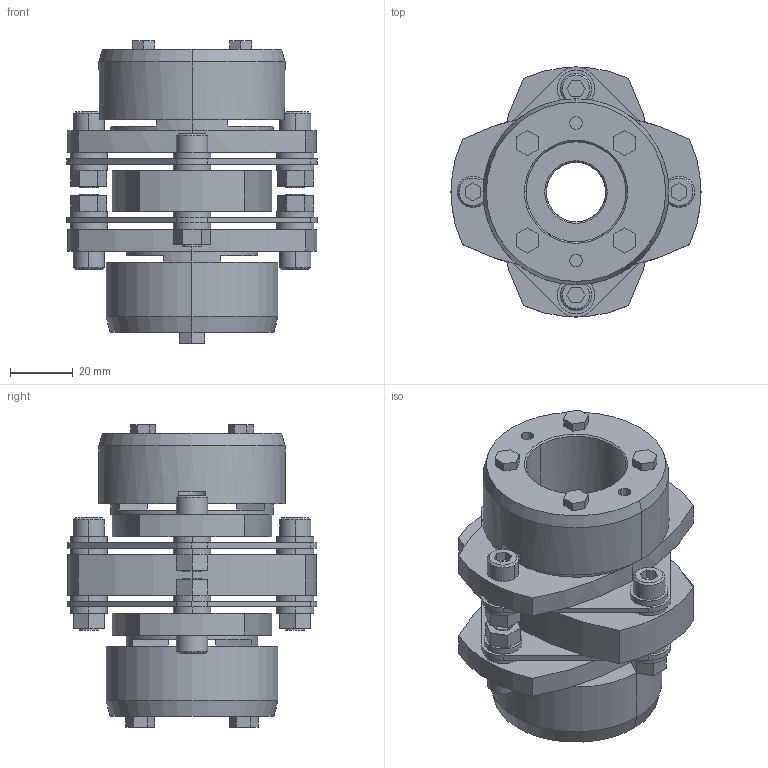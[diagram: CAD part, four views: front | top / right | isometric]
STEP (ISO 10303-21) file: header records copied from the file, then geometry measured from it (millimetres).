
FILE_DESCRIPTION((''),'2;1');
FILE_NAME('LCD-80T7-19×32.stp','2011-09-15T13:43:58',(''),(''),'AutoCAD STEP 2000i','AutoCAD 2000i',', , ');
FILE_SCHEMA(('CONFIG_CONTROL_DESIGN'));
Length unit declared in the file: millimetre
Products named in the file (12): LCD-80T7-19×32; 忣兜1; LC80T7-T032; LC80T7-T030; LC80T7-T028; LC80T7-T024; LC80T7-T022; LC80T7-T019-1; LC80T7-T019; LC80T7-T017-1; LC80T7-T017; LCD80-ITA
Assembly tree (11 placements, depth 2):
  LCD-80T7-19×32
    忣兜1
    LC80T7-T032
    LC80T7-T030
    LC80T7-T028
    LC80T7-T024
    LC80T7-T022
    LC80T7-T019-1
    LC80T7-T019
    LC80T7-T017-1
    LC80T7-T017
    LCD80-ITA
Bounding box: 80 x 79.95 x 96.8 mm (x, y, z)
Volume: 186486.3 mm3; surface area: 58396.3 mm2
Topology: 1 solids, 1 shells, 327 faces, 800 edges, 524 vertices
Faces by surface type: plane 181, cylinder 122, cone 24
Entity records: 9967 total; most frequent: DIRECTION 1774, CARTESIAN_POINT 1663, ORIENTED_EDGE 1600, EDGE_CURVE 800, AXIS2_PLACEMENT_3D 635, VERTEX_POINT 524, VECTOR 504, LINE 504
